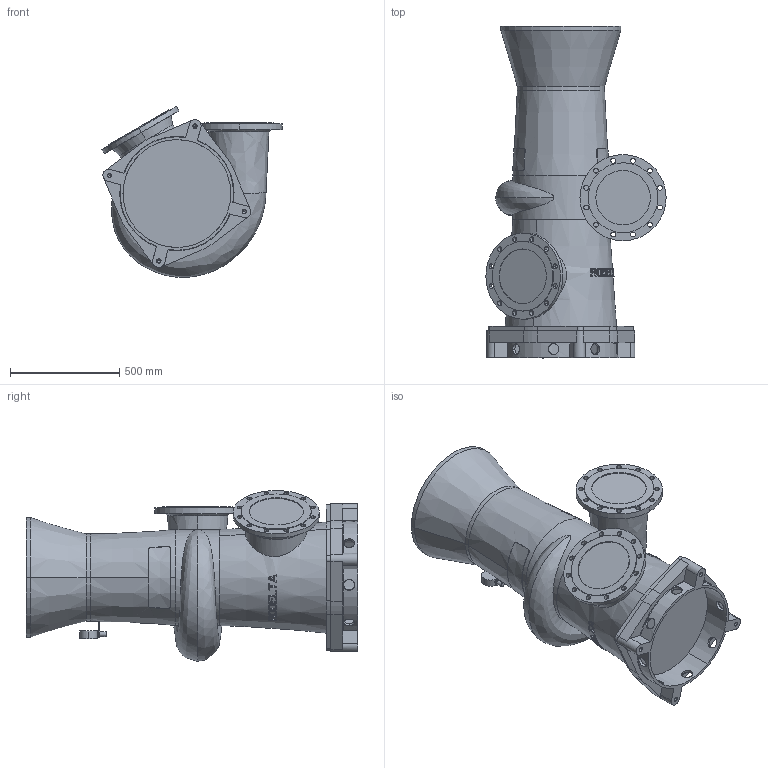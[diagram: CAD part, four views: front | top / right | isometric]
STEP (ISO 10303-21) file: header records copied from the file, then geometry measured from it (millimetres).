
FILE_DESCRIPTION((''),'2;1');
FILE_NAME('8310_VOOR_BLAD_ASM','2024-07-25T',('Lyritlocal'),(''),'PRO/ENGINEER BY PARAMETRIC TECHNOLOGY CORPORATION, 2016360','PRO/ENGINEER BY PARAMETRIC TECHNOLOGY CORPORATION, 2016360','');
FILE_SCHEMA(('CONFIG_CONTROL_DESIGN'));
Length unit declared in the file: millimetre
Products named in the file (3): 8310; 8310_VOET; 8310_VOOR_BLAD_ASM
Assembly tree (2 placements, depth 2):
  8310_VOOR_BLAD_ASM
    8310
    8310_VOET
Bounding box: 826.54 x 1521 x 782.71 mm (x, y, z)
Volume: 290401681.4 mm3; surface area: 4473475.7 mm2
Topology: 2 solids, 6 shells, 545 faces, 1466 edges, 969 vertices
Faces by surface type: plane 342, cylinder 153, cone 40, bspline 6, torus 4
Entity records: 19407 total; most frequent: CARTESIAN_POINT 6110, ORIENTED_EDGE 2900, DIRECTION 2489, EDGE_CURVE 1458, VERTEX_POINT 969, AXIS2_PLACEMENT_3D 967, EDGE_LOOP 661, VECTOR 555
